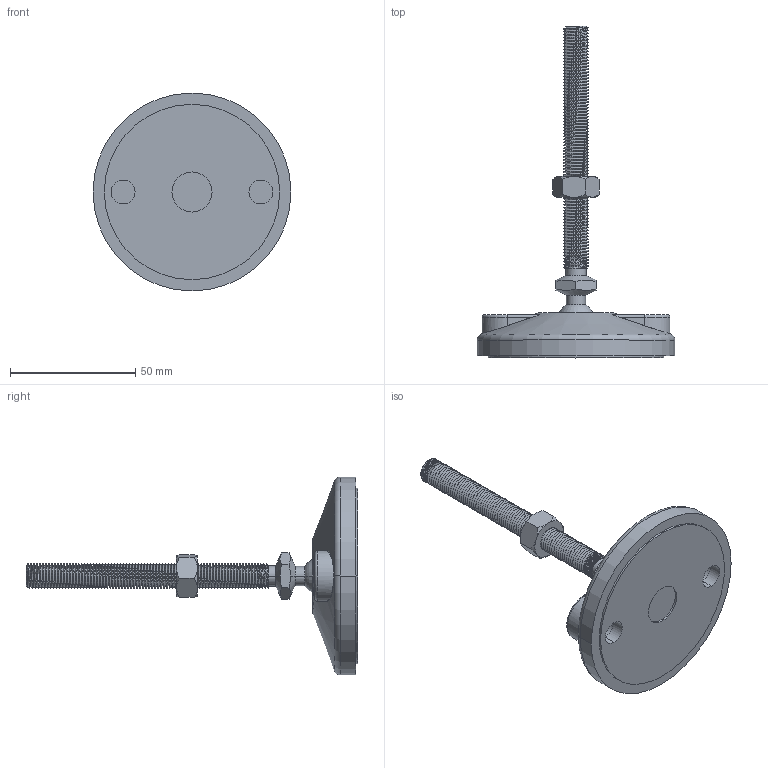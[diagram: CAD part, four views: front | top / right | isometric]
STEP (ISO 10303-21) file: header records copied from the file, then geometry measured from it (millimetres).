
FILE_DESCRIPTION (( 'STEP AP214' ), '1' );
FILE_NAME ('6.04.SPAF80 no holes.STEP', '2015-06-06T05:56:42', ( '' ), ( '' ), 'SwSTEP 2.0', 'SolidWorks 2015', '' );
FILE_SCHEMA (( 'AUTOMOTIVE_DESIGN' ));
Length unit declared in the file: millimetre
Products named in the file (1): 6.04.SPAF80 no holes
Bounding box: 79 x 132.5 x 79 mm (x, y, z)
Volume: 60932.4 mm3; surface area: 33961 mm2
Topology: 4 solids, 4 shells, 320 faces, 882 edges, 574 vertices
Faces by surface type: cylinder 203, plane 50, cone 27, torus 26, bspline 12, sphere 2
Entity records: 20964 total; most frequent: CARTESIAN_POINT 10335, ORIENTED_EDGE 1754, DIRECTION 1231, EDGE_CURVE 877, VERTEX_POINT 571, AXIS2_PLACEMENT_3D 479, EDGE_LOOP 334, UNCERTAINTY_MEASURE_WITH_UNIT 326
